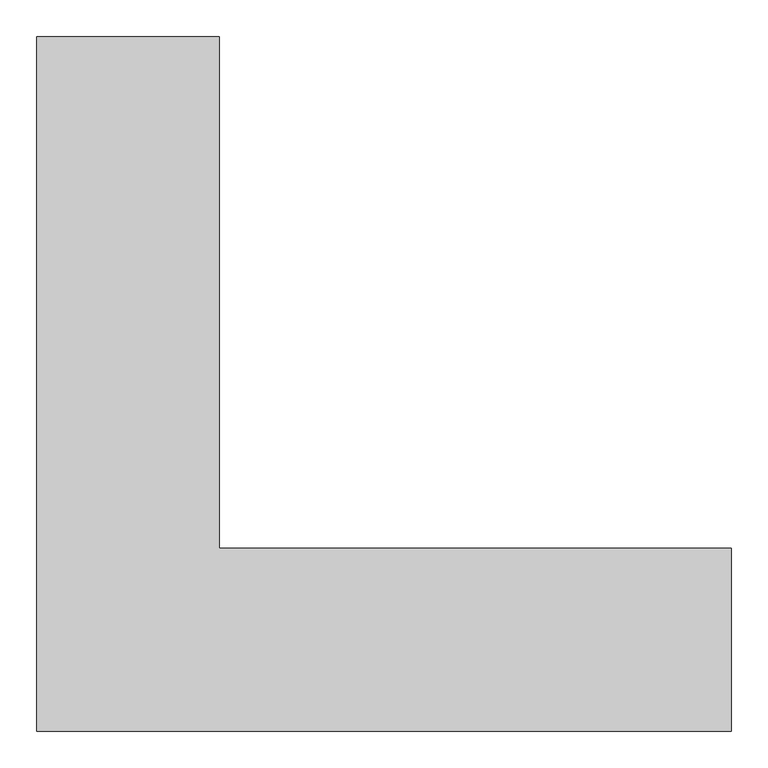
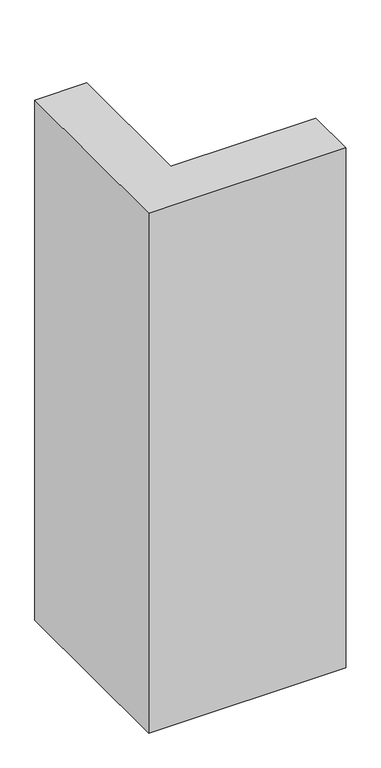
"""IFC4 building model written with IfcOpenShell, lengths in millimetres: column geometry, Columna Estructural Ele : ECO_Ele 95x95x25."""

import ifcopenshell
import ifcopenshell.guid

model = None  # the IFC model being written
_history = None  # IfcOwnerHistory: only IFC2X3 demands one
_inside = {}  # id of a spatial element -> (the spatial element, [elements in it])
_under = {}  # id of a project, library or spatial element -> (it, [spatial elements below it])
_declared = {}  # id of a project -> (the project, [libraries it declares])
_typed = {}  # id of a type object -> (the type object, [elements of that type])
_made_of = {}  # id of a material, layer set ... -> (it, [elements and type objects made of it])


def new_model(schema):
    """Start an empty IFC model of exactly this schema.

    Asked for "IFC4X3", IfcOpenShell would pick the latest addendum, in which some entities
    have other attributes; the version numbers below select the first issue.
    IFC2X3 requires an IfcOwnerHistory on every rooted entity: one is made here for all.
    """
    global model, _history
    if schema == "IFC4X3":
        model = ifcopenshell.file(schema_version=(4, 3, 0, 0))
    else:
        model = ifcopenshell.file(schema=schema)
    _inside.clear()
    _under.clear()
    _declared.clear()
    _typed.clear()
    _made_of.clear()
    _history = None
    if model.schema == "IFC2X3":
        org = make("IfcOrganization", Name="unknown")
        user = make(
            "IfcPersonAndOrganization",
            ThePerson=make("IfcPerson", FamilyName="unknown"),
            TheOrganization=org,
        )
        app = make(
            "IfcApplication",
            ApplicationDeveloper=org,
            Version="unknown",
            ApplicationFullName="unknown",
            ApplicationIdentifier="unknown",
        )
        _history = make(
            "IfcOwnerHistory",
            OwningUser=user,
            OwningApplication=app,
            ChangeAction="ADDED",
            CreationDate=0,
        )
    return model


def make(cls, **values):
    """One entity of the class cls with the attributes given. An attribute that is None is left unset."""
    return model.create_entity(
        cls, **{name: value for name, value in values.items() if value is not None}
    )


def rooted(cls, **values):
    """An entity with a GlobalId (a new one), such as an element, a storey or a relation."""
    return make(cls, GlobalId=ifcopenshell.guid.new(), OwnerHistory=_history, **values)


def si_unit(unit_type, name, prefix=None):
    """IfcSIUnit, for example si_unit("LENGTHUNIT", "METRE", prefix="MILLI")."""
    return make("IfcSIUnit", UnitType=unit_type, Prefix=prefix, Name=name)


def assignment(units):
    """IfcUnitAssignment: the units of a project."""
    return None if units is None else make("IfcUnitAssignment", Units=units)


def point(xyz):
    """IfcCartesianPoint."""
    return None if xyz is None else make("IfcCartesianPoint", Coordinates=xyz)


def direction(xyz):
    """IfcDirection."""
    return None if xyz is None else make("IfcDirection", DirectionRatios=xyz)


def frame(location, z_axis=None, x_axis=None):
    """IfcAxis2Placement3D, a coordinate frame: its origin and axes. An axis left out is left unset."""
    return make(
        "IfcAxis2Placement3D",
        Location=point(location),
        Axis=direction(z_axis),
        RefDirection=direction(x_axis),
    )


def origin():
    """The frame at (0, 0, 0) with its axes left unset."""
    return frame((0.0, 0.0, 0.0))


def place(relative_to, where):
    """IfcLocalPlacement: puts the frame where relative to a parent placement (None: the world)."""
    return make(
        "IfcLocalPlacement", PlacementRelTo=relative_to, RelativePlacement=where
    )


def context(
    kind, dimensions, precision=None, world=None, true_north=None, identifier=None
):
    """IfcGeometricRepresentationContext, for example the 3D "Model" context."""
    return make(
        "IfcGeometricRepresentationContext",
        ContextIdentifier=identifier,
        ContextType=kind,
        CoordinateSpaceDimension=dimensions,
        Precision=precision,
        WorldCoordinateSystem=world,
        TrueNorth=true_north,
    )


def project(units=None, contexts=None):
    """IfcProject with its units and contexts."""
    return rooted(
        "IfcProject",
        Name="project",
        RepresentationContexts=contexts,
        UnitsInContext=assignment(units),
    )


def spatial(cls, under=None, at=None, **own):
    """A site, building, storey or space (cls), placed at a placement, below another one or the project."""
    s = rooted(cls, ObjectPlacement=at, **own)
    if under is not None:
        _under.setdefault(under.id(), (under, []))[1].append(s)
    return s


def polyline(points):
    """IfcPolyline through the points."""
    return make("IfcPolyline", Points=[point(p) for p in points])


def outline(outer, holes=None, kind="AREA"):
    """IfcArbitraryClosedProfileDef: a profile drawn as a closed curve; with holes, ...WithVoids."""
    if holes is None:
        return make("IfcArbitraryClosedProfileDef", ProfileType=kind, OuterCurve=outer)
    return make(
        "IfcArbitraryProfileDefWithVoids",
        ProfileType=kind,
        OuterCurve=outer,
        InnerCurves=holes,
    )


def extrude(swept, where, along, depth):
    """IfcExtrudedAreaSolid: the profile swept, set in the frame where, extruded along a direction by depth."""
    return make(
        "IfcExtrudedAreaSolid",
        SweptArea=swept,
        Position=where,
        ExtrudedDirection=direction(along),
        Depth=depth,
    )


def shape(context_of_items, identifier, shape_type, items):
    """IfcShapeRepresentation: the items that make up one representation, for example the "Body"."""
    return make(
        "IfcShapeRepresentation",
        ContextOfItems=context_of_items,
        RepresentationIdentifier=identifier,
        RepresentationType=shape_type,
        Items=items,
    )


def source(mapping_origin, context_of_items, identifier, shape_type, items):
    """IfcRepresentationMap: a shape defined once, which mapped items show again and again."""
    return make(
        "IfcRepresentationMap",
        MappingOrigin=mapping_origin,
        MappedRepresentation=shape(context_of_items, identifier, shape_type, items),
    )


def transform(
    local_origin,
    x_axis=None,
    y_axis=None,
    z_axis=None,
    scale=None,
    scale2=None,
    scale3=None,
    uniform=True,
):
    """IfcCartesianTransformationOperator3D, or its non-uniform kind. x_axis, y_axis, z_axis: its Axis1, 2, 3."""
    if uniform:
        return make(
            "IfcCartesianTransformationOperator3D",
            Axis1=direction(x_axis),
            Axis2=direction(y_axis),
            LocalOrigin=point(local_origin),
            Scale=scale,
            Axis3=direction(z_axis),
        )
    return make(
        "IfcCartesianTransformationOperator3DnonUniform",
        Axis1=direction(x_axis),
        Axis2=direction(y_axis),
        LocalOrigin=point(local_origin),
        Scale=scale,
        Axis3=direction(z_axis),
        Scale2=scale2,
        Scale3=scale3,
    )


def mapped(mapping_source, mapping_target):
    """IfcMappedItem: shows the shape of a source again, moved by a transform."""
    return make(
        "IfcMappedItem", MappingSource=mapping_source, MappingTarget=mapping_target
    )


def made_of(thing, what):
    """Note that an element or type object is made of a material, layer set ...; save() writes the relation."""
    if what is not None:
        _made_of.setdefault(what.id(), (what, []))[1].append(thing)
    return thing


def element(
    cls,
    number,
    at=None,
    inside=None,
    cuts=None,
    type_object=None,
    material=None,
    context=None,
    identifier="Body",
    shape_type=None,
    held_by="IfcProductDefinitionShape",
    body=None,
    shapes=None,
    **own,
):
    """One element of the class cls, such as IfcWall. Its Tag is "e" and its number.

    at: its placement. inside: the storey or other place that contains it. cuts: it is an
    opening in that element (IfcRelVoidsElement). A single representation is given by context,
    identifier, shape_type and body (its items); several are given by shapes. held_by: the class
    of the entity that holds the representations. save() writes the other relations.
    """
    e = rooted(cls, Tag="e%d" % number, ObjectPlacement=at, **own)
    if body is not None:
        shapes = [shape(context, identifier, shape_type, body)]
    if shapes is not None:
        e.Representation = make(held_by, Representations=shapes)
    if inside is not None:
        _inside.setdefault(inside.id(), (inside, []))[1].append(e)
    if cuts is not None:
        rooted(
            "IfcRelVoidsElement", RelatingBuildingElement=cuts, RelatedOpeningElement=e
        )
    if type_object is not None:
        _typed.setdefault(type_object.id(), (type_object, []))[1].append(e)
    return made_of(e, material)


def aggregate(whole, parts):
    """IfcRelAggregates: a whole, such as a stair, and the parts it consists of."""
    return rooted("IfcRelAggregates", RelatingObject=whole, RelatedObjects=parts)


def save(model, path):
    """Write the relations noted so far, then the file.

    IfcRelAggregates (storeys below a building ...), IfcRelContainedInSpatialStructure (elements
    in a storey), IfcRelDefinesByType, IfcRelAssociatesMaterial and IfcRelDeclares: one each for
    every whole, place, type object, material and project.
    """
    for whole, parts in _under.values():
        aggregate(whole, parts)
    for where, things in _inside.values():
        rooted(
            "IfcRelContainedInSpatialStructure",
            RelatedElements=things,
            RelatingStructure=where,
        )
    for kind, things in _typed.values():
        rooted("IfcRelDefinesByType", RelatedObjects=things, RelatingType=kind)
    for what, things in _made_of.values():
        rooted("IfcRelAssociatesMaterial", RelatedObjects=things, RelatingMaterial=what)
    for by, libraries in _declared.values():
        rooted("IfcRelDeclares", RelatingContext=by, RelatedDefinitions=libraries)
    model.write(path)


def column_4630523e(model_context):
    return source(origin(), model_context, "Body", "SweptSolid", [
        extrude(outline(polyline([(125.0, 825.0), (125.0, 125.0), (825.0, 125.0), (825.0, -125.0), (-125.0, -125.0), (-125.0, 825.0), (125.0, 825.0)])), frame((0.0, 0.0, 10700.0), z_axis=(0.0, 0.0, 1.0), x_axis=(1.0, 0.0, 0.0)), (0.0, 0.0, 1.0), 2650.0),
    ])


if __name__ == "__main__":
    model = new_model("IFC4")
    model_context = context("Model", 3, world=origin())
    ifc_project = project(units=[si_unit("LENGTHUNIT", "METRE", prefix="MILLI")], contexts=[model_context])
    site = spatial("IfcSite", under=ifc_project)
    building = spatial("IfcBuilding", under=site)
    placement = place(None, origin())
    column_shape = column_4630523e(model_context)
    element("IfcColumn", 1, ObjectType="Columna Estructural Ele : ECO_Ele 95x95x25", at=placement, inside=building, context=model_context, shape_type="MappedRepresentation", body=[
        mapped(column_shape, transform((0.0, 0.0, 0.0), x_axis=(1.0, 0.0, 0.0), y_axis=(0.0, 1.0, 0.0), z_axis=(0.0, 0.0, 1.0))),
    ])
    save(model, "model.ifc")
